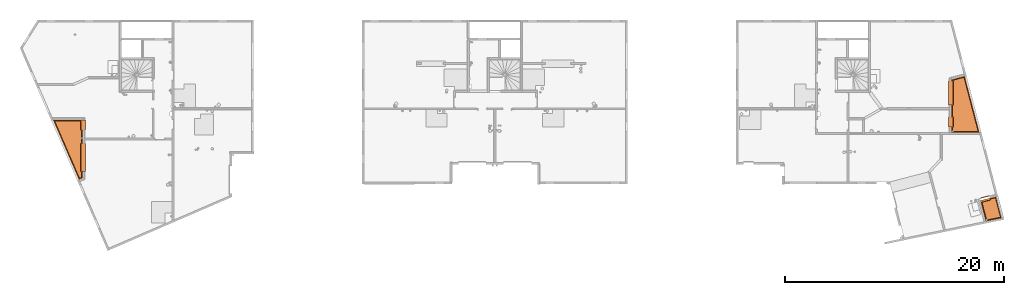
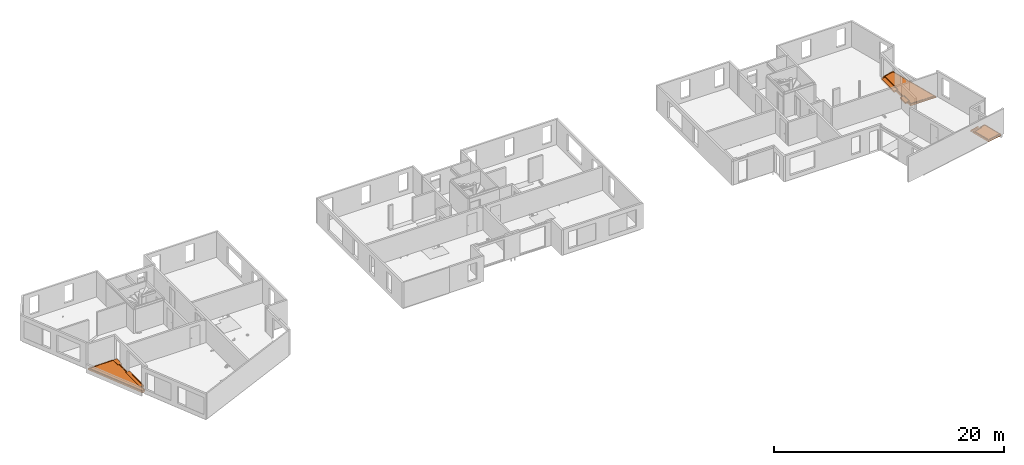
# One storey, part 24 of 24: 3 proxies.
"""IFC2X3 building model written with IfcOpenShell, lengths in centimetres."""

from ifc_helpers import new_model, entity, si_unit, converted_unit, derived_unit, direction, frame, origin, place, context, subcontext, project, spatial, faceted_brep, source, transform, mapped, material, type_object, type_shapes, element, save


model = new_model("IFC2X3")

# Units and contexts
model_context = context("Model", 3, precision=0.001, world=origin(), true_north=direction((6.12303176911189e-17, 1.0)))
body_context = subcontext(model_context, "Body", "Model", "MODEL_VIEW")
ifc_project = project(units=[si_unit("LENGTHUNIT", "METRE", prefix="CENTI"), si_unit("AREAUNIT", "SQUARE_METRE"), si_unit("VOLUMEUNIT", "CUBIC_METRE"), converted_unit("PLANEANGLEUNIT", "DEGREE", entity("IfcRatioMeasure", 0.0174532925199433), si_unit("PLANEANGLEUNIT", "RADIAN"), dimensions=[0, 0, 0, 0, 0, 0, 0]), si_unit("MASSUNIT", "GRAM", prefix="KILO"), derived_unit("MASSDENSITYUNIT", [(si_unit("MASSUNIT", "GRAM", prefix="KILO"), 1), (si_unit("LENGTHUNIT", "METRE"), -3)]), si_unit("TIMEUNIT", "SECOND"), si_unit("FREQUENCYUNIT", "HERTZ"), si_unit("THERMODYNAMICTEMPERATUREUNIT", "DEGREE_CELSIUS"), derived_unit("THERMALTRANSMITTANCEUNIT", [(si_unit("MASSUNIT", "GRAM", prefix="KILO"), 1), (si_unit("THERMODYNAMICTEMPERATUREUNIT", "KELVIN"), -1), (si_unit("TIMEUNIT", "SECOND"), -3)]), derived_unit("VOLUMETRICFLOWRATEUNIT", [(si_unit("LENGTHUNIT", "METRE"), 3), (si_unit("TIMEUNIT", "SECOND"), -1)]), si_unit("ELECTRICCURRENTUNIT", "AMPERE"), si_unit("ELECTRICVOLTAGEUNIT", "VOLT"), si_unit("POWERUNIT", "WATT"), si_unit("FORCEUNIT", "NEWTON"), si_unit("ILLUMINANCEUNIT", "LUX"), si_unit("LUMINOUSFLUXUNIT", "LUMEN"), si_unit("LUMINOUSINTENSITYUNIT", "CANDELA"), derived_unit("USERDEFINED", [(si_unit("MASSUNIT", "GRAM", prefix="KILO"), -1), (si_unit("LENGTHUNIT", "METRE"), -2), (si_unit("TIMEUNIT", "SECOND"), 3), (si_unit("LUMINOUSFLUXUNIT", "LUMEN"), 1)]), derived_unit("LINEARVELOCITYUNIT", [(si_unit("LENGTHUNIT", "METRE"), 1), (si_unit("TIMEUNIT", "SECOND"), -1)]), si_unit("PRESSUREUNIT", "PASCAL"), derived_unit("USERDEFINED", [(si_unit("LENGTHUNIT", "METRE"), -2), (si_unit("MASSUNIT", "GRAM", prefix="KILO"), 1), (si_unit("TIMEUNIT", "SECOND"), -2)])], contexts=[model_context])

# Site, building, storey
site_placement = place(None, origin())
site = spatial("IfcSite", under=ifc_project, at=site_placement, Name="Default", CompositionType="ELEMENT")
building_placement = place(site_placement, origin())
building = spatial("IfcBuilding", under=site, at=building_placement, Name="CAGE 03", CompositionType="ELEMENT")
storey_placement = place(building_placement, frame((0.0, 0.0, 1150.0)))
storey = spatial("IfcBuildingStorey", under=building, at=storey_placement, Name="R+4", CompositionType="ELEMENT", Elevation=1150.0)

# Proxies
ifc_material = material(Name="Béton, C25/30 balcon")
building_element_proxy_type_1 = type_object("IfcBuildingElementProxyType", Name="balcon CSP", PredefinedType="NOTDEFINED", material=ifc_material)
shared_shape_1 = source(origin(), body_context, "Body", "Brep", [
    faceted_brep([(292.715205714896, 329.810793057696, 0.0), (292.715205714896, 329.810793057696, 17.4999999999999), (292.715205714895, 74.8107930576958, 17.4999999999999), (292.715205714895, 74.8107930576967, 0.0), (286.715205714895, 74.8107930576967, 0.0), (268.715205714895, 74.8107930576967, 0.0), (268.715205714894, 14.0844099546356, 0.0), (236.163999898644, 0.0, 0.0), (0.0, 545.810793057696, 0.0), (268.715205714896, 545.810793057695, 0.0), (286.715205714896, 545.810793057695, 0.0), (292.715205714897, 545.810793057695, 0.0), (292.715205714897, 454.810793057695, 0.0), (286.715205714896, 454.810793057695, 0.0), (268.715205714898, 454.810793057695, 0.0), (268.715205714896, 329.810793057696, 0.0), (286.715205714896, 329.810793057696, 0.0), (268.715205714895, 74.8107930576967, 19.6099582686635), (268.715205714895, 74.8107930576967, 15.0), (262.277762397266, 74.8107930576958, 15.0), (262.675797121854, 74.8107930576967, 19.549557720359), (285.715205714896, 329.810793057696, 15.9713250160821), (285.715205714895, 74.8107930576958, 15.9713250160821), (285.715205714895, 74.8107930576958, 15.0), (285.715205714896, 329.810793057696, 15.0), (268.715205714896, 329.810793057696, 15.0), (262.277762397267, 329.810793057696, 15.0), (262.277762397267, 454.810793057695, 15.0), (268.715205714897, 454.810793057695, 15.0), (285.715205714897, 454.810793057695, 15.0), (285.715205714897, 545.810793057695, 15.0), (268.715205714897, 545.810793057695, 15.0), (251.715205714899, 545.810793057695, 15.0), (251.715205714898, 539.373349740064, 15.0), (7.62039711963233, 539.373349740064, 15.0), (237.680215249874, 7.67024580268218, 15.0), (262.277762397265, 18.313229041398, 15.0), (251.715205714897, 329.810793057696, 15.0), (251.715205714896, 74.8107930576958, 15.0), (258.715205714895, 74.8107930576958, 15.0), (258.715205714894, 20.6535071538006, 15.0), (239.53511893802, 12.3545763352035, 15.0), (13.0436030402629, 535.810793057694, 15.0), (251.715205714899, 535.810793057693, 15.0), (251.715205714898, 454.810793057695, 15.0), (258.715205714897, 454.810793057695, 15.0), (258.715205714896, 329.810793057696, 15.0), (268.715205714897, 329.810793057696, 19.6099582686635), (268.715205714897, 454.810793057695, 19.6099582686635), (262.675797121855, 454.810793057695, 19.549557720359), (262.675797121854, 329.810793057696, 19.5495577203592), (249.739507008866, 329.810793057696, 19.4201809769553), (249.739507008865, 74.8107930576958, 19.4201809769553), (249.764508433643, 74.8107930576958, 16.9203059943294), (249.764508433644, 329.810793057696, 16.9203059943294), (251.715205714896, 74.8107930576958, 16.9398150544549), (251.715205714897, 329.810793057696, 16.9398150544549), (249.764508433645, 454.810793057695, 16.9203059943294), (249.739507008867, 454.810793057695, 19.4201809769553), (258.715205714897, 454.810793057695, 19.5099475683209), (251.715205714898, 454.810793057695, 16.9398150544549), (292.715205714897, 454.810793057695, 17.4999999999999), (285.715205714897, 454.810793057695, 15.9713250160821), (292.715205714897, 545.810793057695, 17.4999999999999), (285.715205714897, 545.810793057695, 15.9713250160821), (251.715205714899, 545.810793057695, 16.9398150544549), (0.0, 545.810793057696, 16.9225186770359), (249.739507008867, 545.810793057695, 19.4201809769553), (249.764508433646, 545.810793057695, 16.9203059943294), (249.739507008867, 539.760065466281, 19.4201809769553), (249.764508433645, 539.541354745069, 16.9203059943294), (251.715205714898, 539.543061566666, 16.9398150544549), (268.715205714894, 14.0844099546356, 19.6099582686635), (258.715205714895, 74.8107930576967, 19.5099475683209), (258.715205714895, 20.653507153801, 19.5099475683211), (262.675797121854, 18.0517561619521, 19.549557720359), (13.0436030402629, 535.810793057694, 17.0529686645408), (249.739507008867, 535.810793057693, 19.4201809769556), (249.764508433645, 535.810793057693, 16.9203059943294), (251.715205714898, 535.810793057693, 16.9398150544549), (7.35455590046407, 539.547983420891, 16.9960721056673), (258.715205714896, 329.810793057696, 19.5099475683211), (239.53511893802, 12.3545763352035, 19.3181261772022), (237.484448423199, 7.17586082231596, 19.297617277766), (236.163999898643, 0.0, 19.2844113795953)], [[[0, 1, 2, 3]], [[0, 3, 4, 5, 6, 7, 8, 9, 10, 11, 12, 13, 14, 15, 16]], [[17, 18, 19, 20]], [[1, 21, 22, 2]], [[23, 24, 25, 26, 27, 28, 29, 30, 31, 32, 33, 34, 35, 36, 19, 18], [37, 38, 39, 40, 41, 42, 43, 44, 45, 46]], [[21, 24, 23, 22]], [[47, 48, 49, 50]], [[51, 52, 53, 54]], [[54, 53, 55, 56]], [[56, 55, 38, 37]], [[25, 47, 50, 26]], [[3, 2, 22, 23, 18, 5, 4]], [[57, 58, 59, 45, 44, 60]], [[12, 61, 62, 29, 28, 14, 13]], [[11, 63, 61, 12]], [[63, 64, 62, 61]], [[64, 30, 29, 62]], [[65, 32, 31, 30, 64, 63, 11, 10, 9, 8, 66, 67, 68]], [[68, 67, 69, 70]], [[65, 68, 70, 71]], [[32, 65, 71, 33]], [[24, 21, 1, 0, 16, 15, 25]], [[18, 17, 72, 6, 5]], [[48, 47, 25, 15, 14, 28]], [[40, 39, 73, 74]], [[19, 36, 75, 20]], [[43, 42, 76, 77, 78, 79]], [[34, 33, 71, 70, 69, 80]], [[46, 45, 59, 81]], [[27, 26, 50, 49]], [[41, 40, 74, 82]], [[36, 35, 83, 75]], [[42, 41, 82, 76]], [[35, 34, 80, 83]], [[84, 7, 6, 72]], [[7, 84, 66, 8]], [[60, 44, 43, 79]], [[57, 60, 79, 78]], [[58, 57, 78, 77]], [[48, 28, 27, 49]], [[51, 54, 56, 37, 46, 81]], [[52, 51, 81, 59, 58, 77, 76, 82, 74, 73]], [[17, 20, 75, 83, 80, 69, 67, 66, 84, 72]], [[53, 52, 73, 39, 38, 55]]]),
])
type_shapes(building_element_proxy_type_1, [shared_shape_1])
proxy_1_placement = place(storey_placement, frame((3050.15061442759, 3835.84987301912, -20.0)))
element("IfcBuildingElementProxy", 1, at=proxy_1_placement, inside=storey, type_object=building_element_proxy_type_1, material=ifc_material, Name="BY_STR_Balcon_CSP_01:balcon CSP", ObjectType="balcon CSP", context=body_context, shape_type="MappedRepresentation", body=[
    mapped(shared_shape_1, transform((0.0, 0.0, 0.0), scale=1.0)),
])
building_element_proxy_type_2 = type_object("IfcBuildingElementProxyType", Name="balcon CSP", PredefinedType="NOTDEFINED", material=ifc_material)
shared_shape_2 = source(origin(), body_context, "Body", "Brep", [
    faceted_brep([(42.9756987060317, 250.0, 19.4201809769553), (42.9756987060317, 470.0, 19.4201809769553), (42.9506972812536, 470.0, 16.9203059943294), (42.9506972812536, 250.0, 16.9203059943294), (0.0, 250.0, 17.4999999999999), (7.0, 250.0, 15.9713250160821), (7.0, 470.0, 15.9713250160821), (0.0, 470.0, 17.4999999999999), (24.0, 470.0, 19.6099582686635), (24.0, 470.0, 15.0), (30.4374433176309, 470.0, 15.0), (30.0394085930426, 470.0, 19.549557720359), (7.0, 250.0, 15.0), (0.0, 250.0, 0.0), (6.0, 250.0, 0.0), (24.0, 250.0, 0.0), (24.0, 250.0, 15.0), (0.0, 470.0, 0.0), (7.0, 470.0, 15.0), (24.0, 470.0, 0.0), (6.0, 470.0, 0.0), (41.0, 470.0, 16.9398150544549), (41.0, 250.0, 16.9398150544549), (24.0, 483.640736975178, 0.0), (144.531483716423, 515.118033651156, 0.0), (279.056693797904, 0.0, 0.0), (24.0, 0.0, 0.0), (24.0, 50.0, 0.0), (6.0, 50.0, 0.0), (0.0, 50.0, 0.0), (0.0, 141.0, 0.0), (6.0, 141.0, 0.0), (24.0, 141.0, 0.0), (41.0, 50.0, 16.9398150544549), (41.0, 141.0, 16.9398150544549), (41.0, 141.0, 15.0), (41.0, 50.0, 15.0), (24.0, 483.640736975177, 19.6099582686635), (24.0, 250.0, 19.6099582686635), (30.0394085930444, 250.0, 19.549557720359), (30.4374433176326, 250.0, 15.0), (24.0, 50.0, 19.6099582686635), (30.0394085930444, 50.0, 19.549557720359), (30.4374433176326, 50.0, 15.0), (24.0, 50.0, 15.0), (0.0, 141.0, 17.4999999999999), (7.0, 141.0, 15.9713250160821), (7.0, 141.0, 15.0), (24.0, 141.0, 15.0), (0.0, 50.0, 17.4999999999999), (7.0, 50.0, 15.9713250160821), (7.0, 50.0, 15.0), (42.9756987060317, 50.0, 19.4201809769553), (42.9756987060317, 141.0, 19.4201809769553), (42.9506972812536, 141.0, 16.9203059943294), (42.9506972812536, 50.0, 16.9203059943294), (41.0, 470.0, 15.0), (41.0, 250.0, 15.0), (34.0, 141.0, 19.5099475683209), (34.0, 141.0, 15.0), (24.0, 0.0, 19.6099582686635), (279.056693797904, 0.0, 17.0591184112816), (34.0, 250.0, 19.5099475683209), (34.0, 50.0, 19.5099475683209), (34.0, 10.0, 19.5099475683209), (268.176845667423, 10.0, 17.1679285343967), (139.317880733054, 503.421096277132, 18.4566560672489), (34.0, 475.916895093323, 19.5099475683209), (34.0, 470.0, 19.5099475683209), (34.0, 470.0, 15.0), (34.0, 475.916895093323, 15.0), (139.317880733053, 503.421096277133, 15.0), (268.176845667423, 10.0, 15.0), (34.0, 10.0, 15.0), (34.0, 50.0, 15.0), (34.0, 250.0, 15.0), (30.4374433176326, 6.4374433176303, 15.0), (272.789261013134, 6.43744331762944, 15.0), (141.864646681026, 507.768233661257, 15.0), (30.4374433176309, 478.668557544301, 15.0), (30.4374433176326, 141.0, 15.0), (24.0, 141.0, 19.6099582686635), (30.0394085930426, 478.975993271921, 19.549557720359), (30.0394085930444, 141.0, 19.5495577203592), (142.079109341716, 508.134305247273, 18.429040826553), (273.029327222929, 6.25201997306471, 17.1193985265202), (144.531483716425, 515.118033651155, 18.4045144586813), (30.0394085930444, 6.03940859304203, 19.5495577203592)], [[[0, 1, 2, 3]], [[4, 5, 6, 7]], [[8, 9, 10, 11]], [[12, 5, 4, 13, 14, 15, 16]], [[17, 7, 6, 18, 9, 19, 20]], [[3, 2, 21, 22]], [[13, 17, 20, 19, 23, 24, 25, 26, 27, 28, 29, 30, 31, 32, 15, 14]], [[33, 34, 35, 36]], [[5, 12, 18, 6]], [[9, 8, 37, 23, 19]], [[16, 38, 39, 40]], [[41, 42, 43, 44]], [[13, 4, 7, 17]], [[30, 45, 46, 47, 48, 32, 31]], [[29, 49, 45, 30]], [[49, 50, 46, 45]], [[50, 51, 47, 46]], [[51, 50, 49, 29, 28, 27, 44]], [[52, 53, 54, 55]], [[55, 54, 34, 33]], [[22, 21, 56, 57]], [[54, 53, 58, 59, 35, 34]], [[60, 26, 25, 61]], [[1, 0, 62, 58, 53, 52, 63, 64, 65, 66, 67, 68]], [[57, 56, 69, 70, 71, 72, 73, 74, 36, 35, 59, 75], [44, 43, 76, 77, 78, 79, 10, 9, 18, 12, 16, 40, 80, 48, 47, 51]], [[81, 38, 16, 15, 32, 48]], [[70, 69, 68, 67]], [[10, 79, 82, 11]], [[75, 59, 58, 62]], [[80, 40, 39, 83]], [[71, 70, 67, 66]], [[79, 78, 84, 82]], [[72, 71, 66, 65]], [[78, 77, 85, 84]], [[86, 24, 23, 37]], [[25, 24, 86, 61]], [[26, 60, 41, 44, 27]], [[74, 73, 64, 63]], [[76, 43, 42, 87]], [[73, 72, 65, 64]], [[77, 76, 87, 85]], [[38, 81, 83, 39]], [[8, 11, 82, 84, 85, 87, 42, 41, 60, 61, 86, 37]], [[81, 48, 80, 83]], [[74, 63, 52, 55, 33, 36]], [[0, 3, 22, 57, 75, 62]], [[2, 1, 68, 69, 56, 21]]], outer=[[True], [True], [True], [True], [True], [True], [True], [True], [True], [True], [True], [True], [True], [True], [True], [True], [True], [True], [True], [True], [True], [True], [True], [True], [False, True], [True], [True], [True], [True], [True], [True], [True], [True], [True], [True], [True], [True], [True], [True], [True], [True], [True], [True], [True], [True], [True], [True]]),
])
type_shapes(building_element_proxy_type_2, [shared_shape_2])
proxy_2_placement = place(storey_placement, frame((11224.3658201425, 4266.66066607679, -20.0)))
element("IfcBuildingElementProxy", 2, at=proxy_2_placement, inside=storey, type_object=building_element_proxy_type_2, material=ifc_material, Name="BY_STR_Balcon_CSP_02:balcon CSP", ObjectType="balcon CSP", context=body_context, shape_type="MappedRepresentation", body=[
    mapped(shared_shape_2, transform((0.0, 0.0, 0.0), scale=1.0)),
])
building_element_proxy_type_3 = type_object("IfcBuildingElementProxyType", Name="balcon CSP", PredefinedType="NOTDEFINED", material=ifc_material)
shared_shape_3 = source(origin(), body_context, "Body", "Brep", [
    faceted_brep([(10.3598672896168, 173.160925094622, 16.9398150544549), (16.4242108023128, 174.74465354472, 16.9398150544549), (16.5884154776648, 174.787536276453, 15.0), (10.3598672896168, 173.160925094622, 15.0), (62.8588143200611, 11.7100564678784, 17.7449866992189), (20.5345860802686, 173.776134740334, 19.4201809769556), (20.5282687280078, 173.800324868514, 16.9203059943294), (20.0353671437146, 175.687721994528, 16.9398150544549), (20.0353671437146, 175.687721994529, 15.0), (62.8588143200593, 11.710056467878, 15.0), (145.911866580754, 219.889083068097, 19.5495577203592), (95.6373971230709, 206.759696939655, 19.5495577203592), (95.7379724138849, 206.374578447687, 15.0), (145.627323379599, 219.403389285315, 15.0), (143.080557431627, 215.05625190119, 19.5099475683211), (189.375509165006, 37.7856533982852, 17.6775919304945), (189.375509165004, 37.7856533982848, 15.0), (143.080557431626, 215.05625190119, 15.0), (60.0937807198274, 7.26075435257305, 17.7089202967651), (194.055606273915, 34.8771914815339, 17.6376211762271), (193.770898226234, 35.0541242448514, 15.0), (60.2662514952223, 7.53828247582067, 15.0), (10.85276887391, 171.273527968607, 16.9203059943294), (10.8590862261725, 171.249337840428, 19.4201809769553), (16.7134676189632, 172.778233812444, 19.4201809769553), (16.9187638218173, 172.857687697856, 16.9203059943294), (98.9061348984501, 194.243189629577, 19.4201809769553), (96.6381581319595, 202.927626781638, 19.5099475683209), (96.6381581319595, 202.927626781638, 15.0), (98.4069159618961, 196.154776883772, 15.0), (98.4069159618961, 196.154776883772, 16.9398150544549), (98.8998175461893, 194.267379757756, 16.9203059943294), (55.5815607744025, 0.0, 17.6500640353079), (199.751747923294, 29.714052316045, 17.5732653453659), (148.294160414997, 226.753189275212, 19.6099582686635), (94.1113612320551, 212.603126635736, 19.6099582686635), (6.06431255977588, 189.609274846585, 15.0), (6.06431255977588, 189.609274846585, 0.0), (55.5815607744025, 0.0, 0.0), (148.294160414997, 226.753189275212, 0.0), (94.1113612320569, 212.603126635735, 15.0), (199.751747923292, 29.714052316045, 0.0)], [[[0, 1, 2, 3]], [[4, 5, 6, 7, 8, 9]], [[10, 11, 12, 13]], [[14, 15, 16, 17]], [[18, 19, 20, 21]], [[22, 23, 24, 25]], [[26, 27, 28, 29, 30, 31]], [[23, 32, 33, 34, 35, 11, 10, 19, 18, 24]], [[13, 20, 19, 10]], [[3, 36, 37, 38, 32, 23, 22, 0]], [[34, 39, 37, 36, 40, 35]], [[0, 22, 25, 1]], [[36, 3, 2, 21, 20, 13, 12, 40], [28, 17, 16, 9, 8, 29]], [[39, 34, 33, 41]], [[24, 18, 21, 2, 1, 25]], [[27, 14, 17, 28]], [[32, 38, 41, 33]], [[15, 4, 9, 16]], [[7, 30, 29, 8]], [[5, 26, 31, 6]], [[35, 40, 12, 11]], [[26, 5, 4, 15, 14, 27]], [[6, 31, 30, 7]], [[37, 39, 41, 38]]]),
    faceted_brep([(88.0470486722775, 235.824326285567, 0.0), (88.0470486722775, 235.824326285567, 17.4999999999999), (89.5631268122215, 230.019026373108, 16.1897071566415), (89.5631268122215, 230.019026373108, 0.0), (0.0, 212.830474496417, 0.0), (0.0, 212.830474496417, 17.4999999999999), (1.51607813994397, 207.025174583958, 16.1897071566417), (1.5160781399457, 207.025174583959, 0.0)], [[[0, 1, 2, 3]], [[4, 5, 1, 0]], [[1, 5, 6, 2]], [[4, 0, 3, 7]], [[3, 2, 6, 7]], [[5, 4, 7, 6]]]),
])
type_shapes(building_element_proxy_type_3, [shared_shape_3])
proxy_3_placement = place(storey_placement, frame((11507.6472712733, 3455.88872702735, -20.0)))
element("IfcBuildingElementProxy", 3, at=proxy_3_placement, inside=storey, type_object=building_element_proxy_type_3, material=ifc_material, Name="BY_STR_Balcon_CSP_03:balcon CSP", ObjectType="balcon CSP", context=body_context, shape_type="MappedRepresentation", body=[
    mapped(shared_shape_3, transform((0.0, 0.0, 0.0), scale=1.0)),
])

save(model, "model.ifc")
